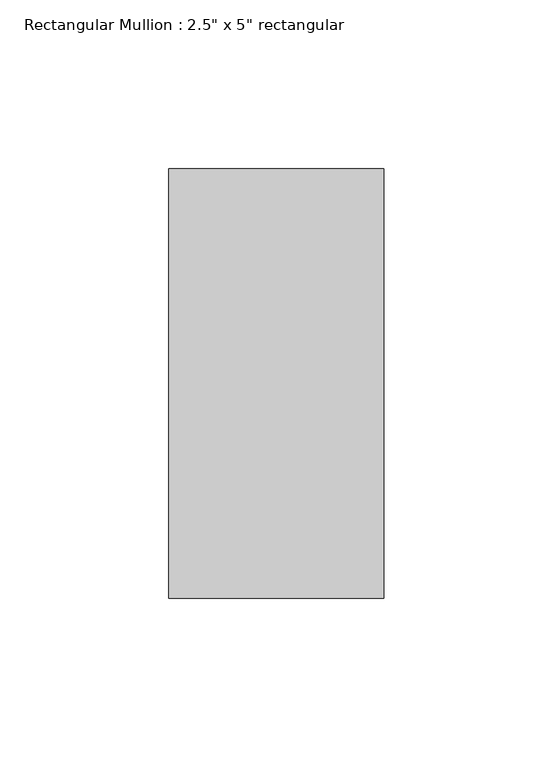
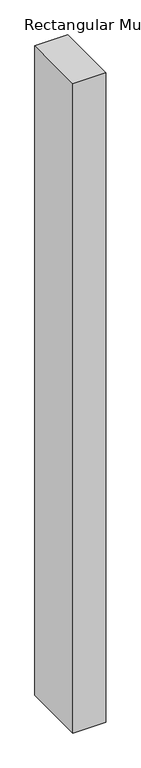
"""IFC4 building model written with IfcOpenShell, lengths in millimetres: member geometry."""

from ifc_helpers import new_model, si_unit, frame, origin, place, context, project, spatial, polyline, outline, extrude, source, transform, mapped, element, save


def member_5562cc56(model_context):
    return source(origin(), model_context, "Body", "SweptSolid", [
        extrude(outline(polyline([(0.0, 63.5), (0.0, -63.5), (-63.5, -63.5), (-63.5, 63.5), (0.0, 63.5)])), frame((0.0, 0.0, -1322.6463396), z_axis=(0.0, 0.0, 1.0), x_axis=(1.0, 0.0, 0.0)), (0.0, 0.0, 1.0), 1322.6463396),
    ])


if __name__ == "__main__":
    model = new_model("IFC4")
    model_context = context("Model", 3, world=origin())
    ifc_project = project(units=[si_unit("LENGTHUNIT", "METRE", prefix="MILLI")], contexts=[model_context])
    site = spatial("IfcSite", under=ifc_project)
    building = spatial("IfcBuilding", under=site)
    placement = place(None, origin())
    member_shape = member_5562cc56(model_context)
    element("IfcMember", 1, ObjectType="Rectangular Mullion : 2.5\" x 5\" rectangular", at=placement, inside=building, context=model_context, shape_type="MappedRepresentation", body=[
        mapped(member_shape, transform((0.0, 0.0, 0.0), x_axis=(1.0, 0.0, 0.0), y_axis=(0.0, 1.0, 0.0), z_axis=(0.0, 0.0, 1.0))),
    ])
    save(model, "model.ifc")
